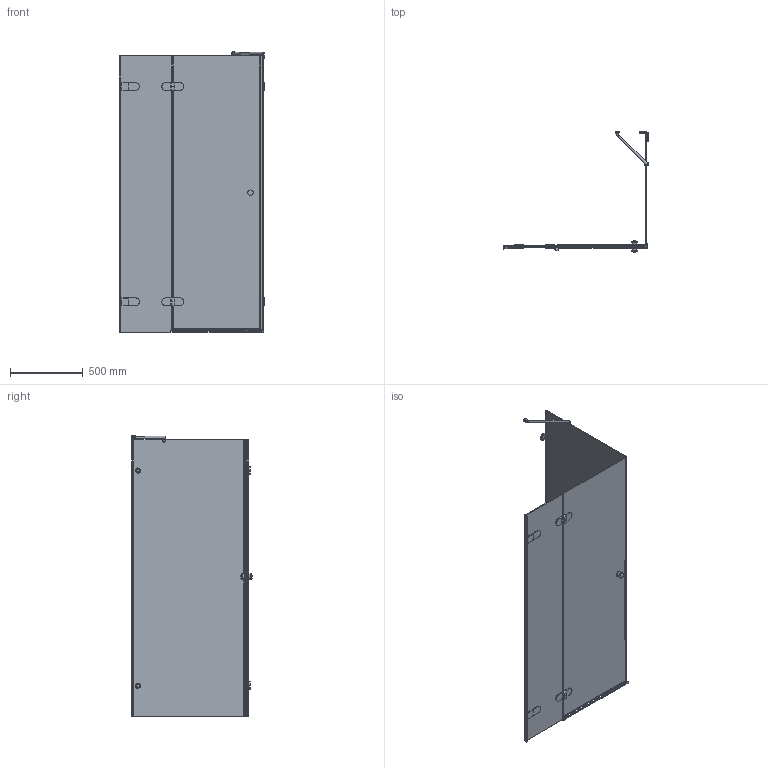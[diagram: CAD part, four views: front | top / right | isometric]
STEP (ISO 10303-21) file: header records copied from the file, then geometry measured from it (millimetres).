
FILE_DESCRIPTION(/* description */ (''),/* implementation_level */ '2;1');
FILE_NAME(/* name */ 'E:\Работа\Сергей\Душевые кабинки\! Работа\LUX SQUARE GK-003GB-2522\LUX SQUARE GK-003GB-2522 левая модель\LUX SQUARE GK-003GB-2522 ЛЕВАЯ-3D.stp',/* time_stamp */ '2017-06-01T21:11:38+03:00',/* author */ ('PC'),/* organization */ (''),/* preprocessor_version */ 'ST-DEVELOPER v15.2',/* originating_system */ 'Autodesk Inventor 2014',/* authorisation */ '');
FILE_SCHEMA (('AUTOMOTIVE_DESIGN { 1 0 10303 214 3 1 1 }'));
Length unit declared in the file: millimetre
Products named in the file (1): LUX SQUARE GK-003GB-2522 ЛЕВАЯ-
3D
Bounding box: 1000.36 x 828 x 1931.49 mm (x, y, z)
Volume: 21101414.7 mm3; surface area: 7227520.6 mm2
Topology: 4 solids, 4 shells, 676 faces, 1677 edges, 1044 vertices
Faces by surface type: plane 474, cylinder 166, torus 18, bspline 8, sphere 8, cone 2
Full cylindrical faces by diameter (mm): 12 x1, 15 x1, 20 x2, 26 x1, 30 x2, 35 x2, 38 x4, 40 x2
Entity records: 20726 total; most frequent: CARTESIAN_POINT 3973, DIRECTION 3309, ORIENTED_EDGE 3276, EDGE_CURVE 1638, LINE 1213, VECTOR 1213, AXIS2_PLACEMENT_3D 1048, VERTEX_POINT 1032
